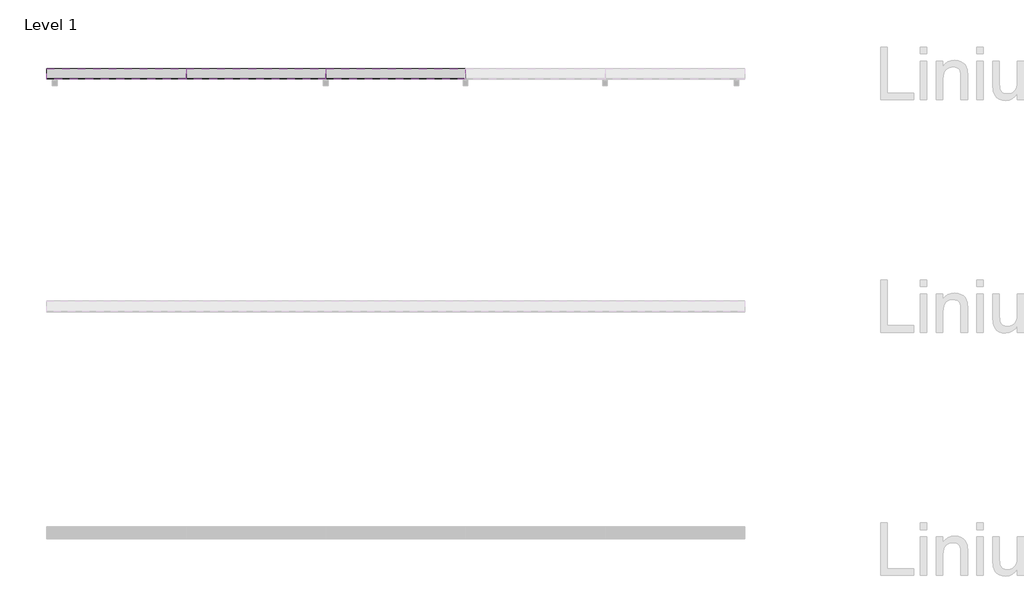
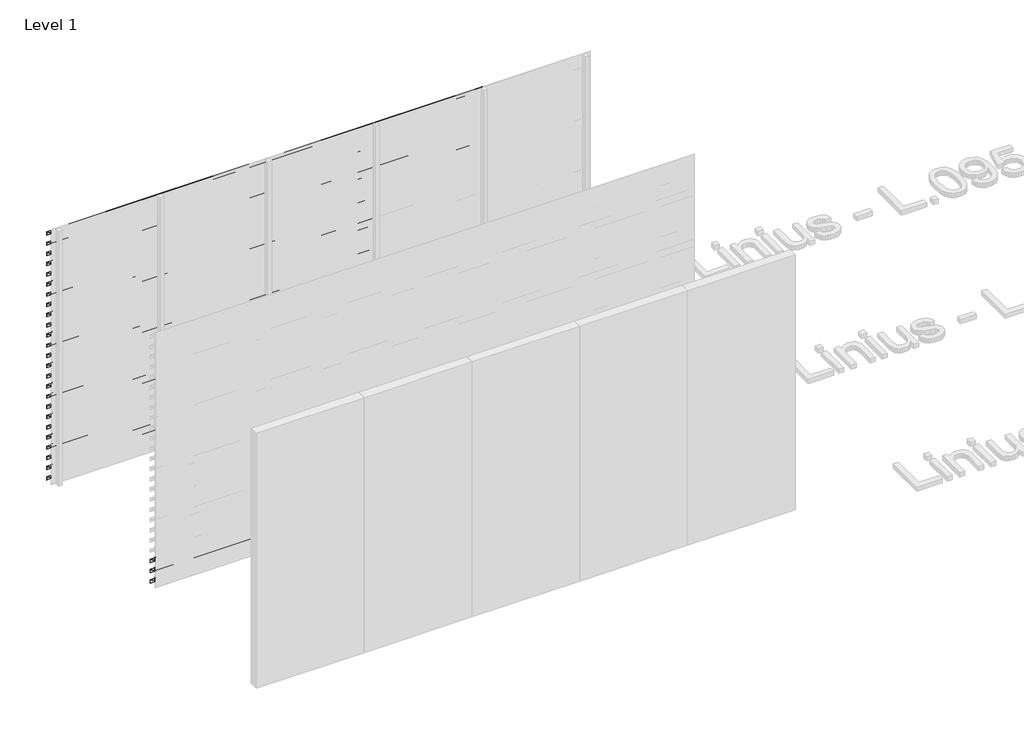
# One storey, part 22 of 46: 85 proxies.
"""IFC4 building model written with IfcOpenShell, lengths in millimetres."""

from ifc_helpers import new_model, si_unit, frame, origin, place, context, project, spatial, polyline, outline, extrude, element, save

model = new_model("IFC4")

# Units and contexts
model_context = context("Model", 3, world=origin())
ifc_project = project(units=[si_unit("LENGTHUNIT", "METRE", prefix="MILLI")], contexts=[model_context])

# Site, building, storey
site = spatial("IfcSite", under=ifc_project)
building = spatial("IfcBuilding", under=site)
storey = spatial("IfcBuildingStorey", under=building, Name="Level 1", Elevation=0.0)

# Proxies
placement = place(None, origin())
element("IfcBuildingElementProxy", 1, Name="Wall Sweeps", at=placement, inside=storey, context=model_context, shape_type="SweptSolid", body=[
    extrude(outline(polyline([(36573.0540136, 2920.0), (36573.0540136, 2880.0), (36571.0540136, 2881.349017), (36571.0540136, 2918.7258595), (36483.0540136, 2959.7609334), (36483.0540136, 3000.0), (36485.0540136, 3000.0), (36485.0540136, 2961.0350739), (36573.0540136, 2920.0)])), frame((466.6208097, 0.0, 0.0), z_axis=(1.0, 0.0, 0.0), x_axis=(0.0, 1.0, 0.0)), (0.0, 0.0, 1.0), 1200.0000002),
])
element("IfcBuildingElementProxy", 2, Name="Wall Sweeps", at=placement, inside=storey, context=model_context, shape_type="SweptSolid", body=[
    extrude(outline(polyline([(36573.0540136, 2800.0), (36573.0540136, 2760.0), (36571.0540136, 2761.349017), (36571.0540136, 2798.7258595), (36483.0540136, 2839.7609334), (36483.0540136, 2880.0), (36485.0540136, 2880.0), (36485.0540136, 2841.0350739), (36573.0540136, 2800.0)])), frame((466.6208097, 0.0, 0.0), z_axis=(1.0, 0.0, 0.0), x_axis=(0.0, 1.0, 0.0)), (0.0, 0.0, 1.0), 1200.0000002),
])
element("IfcBuildingElementProxy", 3, Name="Wall Sweeps", at=placement, inside=storey, context=model_context, shape_type="SweptSolid", body=[
    extrude(outline(polyline([(36573.0540136, 2680.0), (36573.0540136, 2640.0), (36571.0540136, 2641.349017), (36571.0540136, 2678.7258595), (36483.0540136, 2719.7609334), (36483.0540136, 2760.0), (36485.0540136, 2760.0), (36485.0540136, 2721.0350739), (36573.0540136, 2680.0)])), frame((466.6208097, 0.0, 0.0), z_axis=(1.0, 0.0, 0.0), x_axis=(0.0, 1.0, 0.0)), (0.0, 0.0, 1.0), 1200.0000002),
])
element("IfcBuildingElementProxy", 4, Name="Wall Sweeps", at=placement, inside=storey, context=model_context, shape_type="SweptSolid", body=[
    extrude(outline(polyline([(36573.0540136, 2560.0), (36573.0540136, 2520.0), (36571.0540136, 2521.349017), (36571.0540136, 2558.7258595), (36483.0540136, 2599.7609334), (36483.0540136, 2640.0), (36485.0540136, 2640.0), (36485.0540136, 2601.0350739), (36573.0540136, 2560.0)])), frame((466.6208097, 0.0, 0.0), z_axis=(1.0, 0.0, 0.0), x_axis=(0.0, 1.0, 0.0)), (0.0, 0.0, 1.0), 1200.0000002),
])
element("IfcBuildingElementProxy", 5, Name="Wall Sweeps", at=placement, inside=storey, context=model_context, shape_type="SweptSolid", body=[
    extrude(outline(polyline([(36573.0540136, 2440.0), (36573.0540136, 2400.0), (36571.0540136, 2401.349017), (36571.0540136, 2438.7258595), (36483.0540136, 2479.7609334), (36483.0540136, 2520.0), (36485.0540136, 2520.0), (36485.0540136, 2481.0350739), (36573.0540136, 2440.0)])), frame((466.6208097, 0.0, 0.0), z_axis=(1.0, 0.0, 0.0), x_axis=(0.0, 1.0, 0.0)), (0.0, 0.0, 1.0), 1200.0000002),
])
element("IfcBuildingElementProxy", 6, Name="Wall Sweeps", at=placement, inside=storey, context=model_context, shape_type="SweptSolid", body=[
    extrude(outline(polyline([(36573.0540136, 2320.0), (36573.0540136, 2280.0), (36571.0540136, 2281.349017), (36571.0540136, 2318.7258595), (36483.0540136, 2359.7609334), (36483.0540136, 2400.0), (36485.0540136, 2400.0), (36485.0540136, 2361.0350739), (36573.0540136, 2320.0)])), frame((466.6208097, 0.0, 0.0), z_axis=(1.0, 0.0, 0.0), x_axis=(0.0, 1.0, 0.0)), (0.0, 0.0, 1.0), 1200.0000002),
])
element("IfcBuildingElementProxy", 7, Name="Wall Sweeps", at=placement, inside=storey, context=model_context, shape_type="SweptSolid", body=[
    extrude(outline(polyline([(36573.0540136, 2200.0), (36573.0540136, 2160.0), (36571.0540136, 2161.349017), (36571.0540136, 2198.7258595), (36483.0540136, 2239.7609334), (36483.0540136, 2280.0), (36485.0540136, 2280.0), (36485.0540136, 2241.0350739), (36573.0540136, 2200.0)])), frame((466.6208097, 0.0, 0.0), z_axis=(1.0, 0.0, 0.0), x_axis=(0.0, 1.0, 0.0)), (0.0, 0.0, 1.0), 1200.0000002),
])
element("IfcBuildingElementProxy", 8, Name="Wall Sweeps", at=placement, inside=storey, context=model_context, shape_type="SweptSolid", body=[
    extrude(outline(polyline([(36573.0540136, 2080.0), (36573.0540136, 2040.0), (36571.0540136, 2041.349017), (36571.0540136, 2078.7258595), (36483.0540136, 2119.7609334), (36483.0540136, 2160.0), (36485.0540136, 2160.0), (36485.0540136, 2121.0350739), (36573.0540136, 2080.0)])), frame((466.6208097, 0.0, 0.0), z_axis=(1.0, 0.0, 0.0), x_axis=(0.0, 1.0, 0.0)), (0.0, 0.0, 1.0), 1200.0000002),
])
element("IfcBuildingElementProxy", 9, Name="Wall Sweeps", at=placement, inside=storey, context=model_context, shape_type="SweptSolid", body=[
    extrude(outline(polyline([(36573.0540136, 1960.0), (36573.0540136, 1920.0), (36571.0540136, 1921.349017), (36571.0540136, 1958.7258595), (36483.0540136, 1999.7609334), (36483.0540136, 2040.0), (36485.0540136, 2040.0), (36485.0540136, 2001.0350739), (36573.0540136, 1960.0)])), frame((466.6208097, 0.0, 0.0), z_axis=(1.0, 0.0, 0.0), x_axis=(0.0, 1.0, 0.0)), (0.0, 0.0, 1.0), 1200.0000002),
])
element("IfcBuildingElementProxy", 10, Name="Wall Sweeps", at=placement, inside=storey, context=model_context, shape_type="SweptSolid", body=[
    extrude(outline(polyline([(36573.0540136, 1840.0), (36573.0540136, 1800.0), (36571.0540136, 1801.349017), (36571.0540136, 1838.7258595), (36483.0540136, 1879.7609334), (36483.0540136, 1920.0), (36485.0540136, 1920.0), (36485.0540136, 1881.0350739), (36573.0540136, 1840.0)])), frame((466.6208097, 0.0, 0.0), z_axis=(1.0, 0.0, 0.0), x_axis=(0.0, 1.0, 0.0)), (0.0, 0.0, 1.0), 1200.0000002),
])
element("IfcBuildingElementProxy", 11, Name="Wall Sweeps", at=placement, inside=storey, context=model_context, shape_type="SweptSolid", body=[
    extrude(outline(polyline([(36573.0540136, 1720.0), (36573.0540136, 1680.0), (36571.0540136, 1681.349017), (36571.0540136, 1718.7258595), (36483.0540136, 1759.7609334), (36483.0540136, 1800.0), (36485.0540136, 1800.0), (36485.0540136, 1761.0350739), (36573.0540136, 1720.0)])), frame((466.6208097, 0.0, 0.0), z_axis=(1.0, 0.0, 0.0), x_axis=(0.0, 1.0, 0.0)), (0.0, 0.0, 1.0), 1200.0000002),
])
element("IfcBuildingElementProxy", 12, Name="Wall Sweeps", at=placement, inside=storey, context=model_context, shape_type="SweptSolid", body=[
    extrude(outline(polyline([(36573.0540136, 1600.0), (36573.0540136, 1560.0), (36571.0540136, 1561.349017), (36571.0540136, 1598.7258595), (36483.0540136, 1639.7609334), (36483.0540136, 1680.0), (36485.0540136, 1680.0), (36485.0540136, 1641.0350739), (36573.0540136, 1600.0)])), frame((466.6208097, 0.0, 0.0), z_axis=(1.0, 0.0, 0.0), x_axis=(0.0, 1.0, 0.0)), (0.0, 0.0, 1.0), 1200.0000002),
])
element("IfcBuildingElementProxy", 13, Name="Wall Sweeps", at=placement, inside=storey, context=model_context, shape_type="SweptSolid", body=[
    extrude(outline(polyline([(36573.0540136, 1480.0), (36573.0540136, 1440.0), (36571.0540136, 1441.349017), (36571.0540136, 1478.7258595), (36483.0540136, 1519.7609334), (36483.0540136, 1560.0), (36485.0540136, 1560.0), (36485.0540136, 1521.0350739), (36573.0540136, 1480.0)])), frame((466.6208097, 0.0, 0.0), z_axis=(1.0, 0.0, 0.0), x_axis=(0.0, 1.0, 0.0)), (0.0, 0.0, 1.0), 1200.0000002),
])
element("IfcBuildingElementProxy", 14, Name="Wall Sweeps", at=placement, inside=storey, context=model_context, shape_type="SweptSolid", body=[
    extrude(outline(polyline([(36573.0540136, 1360.0), (36573.0540136, 1320.0), (36571.0540136, 1321.349017), (36571.0540136, 1358.7258595), (36483.0540136, 1399.7609334), (36483.0540136, 1440.0), (36485.0540136, 1440.0), (36485.0540136, 1401.0350739), (36573.0540136, 1360.0)])), frame((466.6208097, 0.0, 0.0), z_axis=(1.0, 0.0, 0.0), x_axis=(0.0, 1.0, 0.0)), (0.0, 0.0, 1.0), 1200.0000002),
])
element("IfcBuildingElementProxy", 15, Name="Wall Sweeps", at=placement, inside=storey, context=model_context, shape_type="SweptSolid", body=[
    extrude(outline(polyline([(36573.0540136, 1240.0), (36573.0540136, 1200.0), (36571.0540136, 1201.349017), (36571.0540136, 1238.7258595), (36483.0540136, 1279.7609334), (36483.0540136, 1320.0), (36485.0540136, 1320.0), (36485.0540136, 1281.0350739), (36573.0540136, 1240.0)])), frame((466.6208097, 0.0, 0.0), z_axis=(1.0, 0.0, 0.0), x_axis=(0.0, 1.0, 0.0)), (0.0, 0.0, 1.0), 1200.0000002),
])
element("IfcBuildingElementProxy", 16, Name="Wall Sweeps", at=placement, inside=storey, context=model_context, shape_type="SweptSolid", body=[
    extrude(outline(polyline([(36573.0540136, 1120.0), (36573.0540136, 1080.0), (36571.0540136, 1081.349017), (36571.0540136, 1118.7258595), (36483.0540136, 1159.7609334), (36483.0540136, 1200.0), (36485.0540136, 1200.0), (36485.0540136, 1161.0350739), (36573.0540136, 1120.0)])), frame((466.6208097, 0.0, 0.0), z_axis=(1.0, 0.0, 0.0), x_axis=(0.0, 1.0, 0.0)), (0.0, 0.0, 1.0), 1200.0000002),
])
element("IfcBuildingElementProxy", 17, Name="Wall Sweeps", at=placement, inside=storey, context=model_context, shape_type="SweptSolid", body=[
    extrude(outline(polyline([(36573.0540136, 1000.0), (36573.0540136, 960.0), (36571.0540136, 961.349017), (36571.0540136, 998.7258595), (36483.0540136, 1039.7609334), (36483.0540136, 1080.0), (36485.0540136, 1080.0), (36485.0540136, 1041.0350739), (36573.0540136, 1000.0)])), frame((466.6208097, 0.0, 0.0), z_axis=(1.0, 0.0, 0.0), x_axis=(0.0, 1.0, 0.0)), (0.0, 0.0, 1.0), 1200.0000002),
])
element("IfcBuildingElementProxy", 18, Name="Wall Sweeps", at=placement, inside=storey, context=model_context, shape_type="SweptSolid", body=[
    extrude(outline(polyline([(36573.0540136, 880.0), (36573.0540136, 840.0), (36571.0540136, 841.349017), (36571.0540136, 878.7258595), (36483.0540136, 919.7609334), (36483.0540136, 960.0), (36485.0540136, 960.0), (36485.0540136, 921.0350739), (36573.0540136, 880.0)])), frame((466.6208097, 0.0, 0.0), z_axis=(1.0, 0.0, 0.0), x_axis=(0.0, 1.0, 0.0)), (0.0, 0.0, 1.0), 1200.0000002),
])
element("IfcBuildingElementProxy", 19, Name="Wall Sweeps", at=placement, inside=storey, context=model_context, shape_type="SweptSolid", body=[
    extrude(outline(polyline([(36573.0540136, 760.0), (36573.0540136, 720.0), (36571.0540136, 721.349017), (36571.0540136, 758.7258595), (36483.0540136, 799.7609334), (36483.0540136, 840.0), (36485.0540136, 840.0), (36485.0540136, 801.0350739), (36573.0540136, 760.0)])), frame((466.6208097, 0.0, 0.0), z_axis=(1.0, 0.0, 0.0), x_axis=(0.0, 1.0, 0.0)), (0.0, 0.0, 1.0), 1200.0000002),
])
element("IfcBuildingElementProxy", 20, Name="Wall Sweeps", at=placement, inside=storey, context=model_context, shape_type="SweptSolid", body=[
    extrude(outline(polyline([(36573.0540136, 640.0), (36573.0540136, 600.0), (36571.0540136, 601.349017), (36571.0540136, 638.7258595), (36483.0540136, 679.7609334), (36483.0540136, 720.0), (36485.0540136, 720.0), (36485.0540136, 681.0350739), (36573.0540136, 640.0)])), frame((466.6208097, 0.0, 0.0), z_axis=(1.0, 0.0, 0.0), x_axis=(0.0, 1.0, 0.0)), (0.0, 0.0, 1.0), 1200.0000002),
])
element("IfcBuildingElementProxy", 21, Name="Wall Sweeps", at=placement, inside=storey, context=model_context, shape_type="SweptSolid", body=[
    extrude(outline(polyline([(36573.0540136, 520.0), (36573.0540136, 480.0), (36571.0540136, 481.349017), (36571.0540136, 518.7258595), (36483.0540136, 559.7609334), (36483.0540136, 600.0), (36485.0540136, 600.0), (36485.0540136, 561.0350739), (36573.0540136, 520.0)])), frame((466.6208097, 0.0, 0.0), z_axis=(1.0, 0.0, 0.0), x_axis=(0.0, 1.0, 0.0)), (0.0, 0.0, 1.0), 1200.0000002),
])
element("IfcBuildingElementProxy", 22, Name="Wall Sweeps", at=placement, inside=storey, context=model_context, shape_type="SweptSolid", body=[
    extrude(outline(polyline([(36573.0540136, 400.0), (36573.0540136, 360.0), (36571.0540136, 361.349017), (36571.0540136, 398.7258595), (36483.0540136, 439.7609334), (36483.0540136, 480.0), (36485.0540136, 480.0), (36485.0540136, 441.0350739), (36573.0540136, 400.0)])), frame((466.6208097, 0.0, 0.0), z_axis=(1.0, 0.0, 0.0), x_axis=(0.0, 1.0, 0.0)), (0.0, 0.0, 1.0), 1200.0000002),
])
element("IfcBuildingElementProxy", 23, Name="Wall Sweeps", at=placement, inside=storey, context=model_context, shape_type="SweptSolid", body=[
    extrude(outline(polyline([(36573.0540136, 280.0), (36573.0540136, 240.0), (36571.0540136, 241.349017), (36571.0540136, 278.7258595), (36483.0540136, 319.7609334), (36483.0540136, 360.0), (36485.0540136, 360.0), (36485.0540136, 321.0350739), (36573.0540136, 280.0)])), frame((466.6208097, 0.0, 0.0), z_axis=(1.0, 0.0, 0.0), x_axis=(0.0, 1.0, 0.0)), (0.0, 0.0, 1.0), 1200.0000002),
])
element("IfcBuildingElementProxy", 24, Name="Wall Sweeps", at=placement, inside=storey, context=model_context, shape_type="SweptSolid", body=[
    extrude(outline(polyline([(36573.0540136, 160.0), (36573.0540136, 120.0), (36571.0540136, 121.349017), (36571.0540136, 158.7258595), (36483.0540136, 199.7609334), (36483.0540136, 240.0), (36485.0540136, 240.0), (36485.0540136, 201.0350739), (36573.0540136, 160.0)])), frame((466.6208097, 0.0, 0.0), z_axis=(1.0, 0.0, 0.0), x_axis=(0.0, 1.0, 0.0)), (0.0, 0.0, 1.0), 1200.0000002),
])
element("IfcBuildingElementProxy", 25, Name="Wall Sweeps", at=placement, inside=storey, context=model_context, shape_type="SweptSolid", body=[
    extrude(outline(polyline([(36573.0540136, 40.0), (36573.0540136, 0.0), (36571.0540136, 1.349017), (36571.0540136, 38.7258595), (36483.0540136, 79.7609334), (36483.0540136, 120.0), (36485.0540136, 120.0), (36485.0540136, 81.0350739), (36573.0540136, 40.0)])), frame((466.6208097, 0.0, 0.0), z_axis=(1.0, 0.0, 0.0), x_axis=(0.0, 1.0, 0.0)), (0.0, 0.0, 1.0), 1200.0000002),
])
element("IfcBuildingElementProxy", 26, Name="Wall Sweeps", at=placement, inside=storey, context=model_context, shape_type="SweptSolid", body=[
    extrude(outline(polyline([(36573.0540136, 2920.0), (36573.0540136, 2880.0), (36571.0540136, 2881.349017), (36571.0540136, 2918.7258595), (36483.0540136, 2959.7609334), (36483.0540136, 3000.0), (36485.0540136, 3000.0), (36485.0540136, 2961.0350739), (36573.0540136, 2920.0)])), frame((1666.6208099, 0.0, 0.0), z_axis=(1.0, 0.0, 0.0), x_axis=(0.0, 1.0, 0.0)), (0.0, 0.0, 1.0), 1199.9999999),
])
element("IfcBuildingElementProxy", 27, Name="Wall Sweeps", at=placement, inside=storey, context=model_context, shape_type="SweptSolid", body=[
    extrude(outline(polyline([(36573.0540136, 2800.0), (36573.0540136, 2760.0), (36571.0540136, 2761.349017), (36571.0540136, 2798.7258595), (36483.0540136, 2839.7609334), (36483.0540136, 2880.0), (36485.0540136, 2880.0), (36485.0540136, 2841.0350739), (36573.0540136, 2800.0)])), frame((1666.6208099, 0.0, 0.0), z_axis=(1.0, 0.0, 0.0), x_axis=(0.0, 1.0, 0.0)), (0.0, 0.0, 1.0), 1199.9999999),
])
element("IfcBuildingElementProxy", 28, Name="Wall Sweeps", at=placement, inside=storey, context=model_context, shape_type="SweptSolid", body=[
    extrude(outline(polyline([(36573.0540136, 2680.0), (36573.0540136, 2640.0), (36571.0540136, 2641.349017), (36571.0540136, 2678.7258595), (36483.0540136, 2719.7609334), (36483.0540136, 2760.0), (36485.0540136, 2760.0), (36485.0540136, 2721.0350739), (36573.0540136, 2680.0)])), frame((1666.6208099, 0.0, 0.0), z_axis=(1.0, 0.0, 0.0), x_axis=(0.0, 1.0, 0.0)), (0.0, 0.0, 1.0), 1199.9999999),
])
element("IfcBuildingElementProxy", 29, Name="Wall Sweeps", at=placement, inside=storey, context=model_context, shape_type="SweptSolid", body=[
    extrude(outline(polyline([(36573.0540136, 2560.0), (36573.0540136, 2520.0), (36571.0540136, 2521.349017), (36571.0540136, 2558.7258595), (36483.0540136, 2599.7609334), (36483.0540136, 2640.0), (36485.0540136, 2640.0), (36485.0540136, 2601.0350739), (36573.0540136, 2560.0)])), frame((1666.6208099, 0.0, 0.0), z_axis=(1.0, 0.0, 0.0), x_axis=(0.0, 1.0, 0.0)), (0.0, 0.0, 1.0), 1199.9999999),
])
element("IfcBuildingElementProxy", 30, Name="Wall Sweeps", at=placement, inside=storey, context=model_context, shape_type="SweptSolid", body=[
    extrude(outline(polyline([(36573.0540136, 2440.0), (36573.0540136, 2400.0), (36571.0540136, 2401.349017), (36571.0540136, 2438.7258595), (36483.0540136, 2479.7609334), (36483.0540136, 2520.0), (36485.0540136, 2520.0), (36485.0540136, 2481.0350739), (36573.0540136, 2440.0)])), frame((1666.6208099, 0.0, 0.0), z_axis=(1.0, 0.0, 0.0), x_axis=(0.0, 1.0, 0.0)), (0.0, 0.0, 1.0), 1199.9999999),
])
element("IfcBuildingElementProxy", 31, Name="Wall Sweeps", at=placement, inside=storey, context=model_context, shape_type="SweptSolid", body=[
    extrude(outline(polyline([(36573.0540136, 2320.0), (36573.0540136, 2280.0), (36571.0540136, 2281.349017), (36571.0540136, 2318.7258595), (36483.0540136, 2359.7609334), (36483.0540136, 2400.0), (36485.0540136, 2400.0), (36485.0540136, 2361.0350739), (36573.0540136, 2320.0)])), frame((1666.6208099, 0.0, 0.0), z_axis=(1.0, 0.0, 0.0), x_axis=(0.0, 1.0, 0.0)), (0.0, 0.0, 1.0), 1199.9999999),
])
element("IfcBuildingElementProxy", 32, Name="Wall Sweeps", at=placement, inside=storey, context=model_context, shape_type="SweptSolid", body=[
    extrude(outline(polyline([(36573.0540136, 2200.0), (36573.0540136, 2160.0), (36571.0540136, 2161.349017), (36571.0540136, 2198.7258595), (36483.0540136, 2239.7609334), (36483.0540136, 2280.0), (36485.0540136, 2280.0), (36485.0540136, 2241.0350739), (36573.0540136, 2200.0)])), frame((1666.6208099, 0.0, 0.0), z_axis=(1.0, 0.0, 0.0), x_axis=(0.0, 1.0, 0.0)), (0.0, 0.0, 1.0), 1199.9999999),
])
element("IfcBuildingElementProxy", 33, Name="Wall Sweeps", at=placement, inside=storey, context=model_context, shape_type="SweptSolid", body=[
    extrude(outline(polyline([(36573.0540136, 2080.0), (36573.0540136, 2040.0), (36571.0540136, 2041.349017), (36571.0540136, 2078.7258595), (36483.0540136, 2119.7609334), (36483.0540136, 2160.0), (36485.0540136, 2160.0), (36485.0540136, 2121.0350739), (36573.0540136, 2080.0)])), frame((1666.6208099, 0.0, 0.0), z_axis=(1.0, 0.0, 0.0), x_axis=(0.0, 1.0, 0.0)), (0.0, 0.0, 1.0), 1199.9999999),
])
element("IfcBuildingElementProxy", 34, Name="Wall Sweeps", at=placement, inside=storey, context=model_context, shape_type="SweptSolid", body=[
    extrude(outline(polyline([(36573.0540136, 1960.0), (36573.0540136, 1920.0), (36571.0540136, 1921.349017), (36571.0540136, 1958.7258595), (36483.0540136, 1999.7609334), (36483.0540136, 2040.0), (36485.0540136, 2040.0), (36485.0540136, 2001.0350739), (36573.0540136, 1960.0)])), frame((1666.6208099, 0.0, 0.0), z_axis=(1.0, 0.0, 0.0), x_axis=(0.0, 1.0, 0.0)), (0.0, 0.0, 1.0), 1199.9999999),
])
element("IfcBuildingElementProxy", 35, Name="Wall Sweeps", at=placement, inside=storey, context=model_context, shape_type="SweptSolid", body=[
    extrude(outline(polyline([(36573.0540136, 1840.0), (36573.0540136, 1800.0), (36571.0540136, 1801.349017), (36571.0540136, 1838.7258595), (36483.0540136, 1879.7609334), (36483.0540136, 1920.0), (36485.0540136, 1920.0), (36485.0540136, 1881.0350739), (36573.0540136, 1840.0)])), frame((1666.6208099, 0.0, 0.0), z_axis=(1.0, 0.0, 0.0), x_axis=(0.0, 1.0, 0.0)), (0.0, 0.0, 1.0), 1199.9999999),
])
element("IfcBuildingElementProxy", 36, Name="Wall Sweeps", at=placement, inside=storey, context=model_context, shape_type="SweptSolid", body=[
    extrude(outline(polyline([(36573.0540136, 1720.0), (36573.0540136, 1680.0), (36571.0540136, 1681.349017), (36571.0540136, 1718.7258595), (36483.0540136, 1759.7609334), (36483.0540136, 1800.0), (36485.0540136, 1800.0), (36485.0540136, 1761.0350739), (36573.0540136, 1720.0)])), frame((1666.6208099, 0.0, 0.0), z_axis=(1.0, 0.0, 0.0), x_axis=(0.0, 1.0, 0.0)), (0.0, 0.0, 1.0), 1199.9999999),
])
element("IfcBuildingElementProxy", 37, Name="Wall Sweeps", at=placement, inside=storey, context=model_context, shape_type="SweptSolid", body=[
    extrude(outline(polyline([(36573.0540136, 1600.0), (36573.0540136, 1560.0), (36571.0540136, 1561.349017), (36571.0540136, 1598.7258595), (36483.0540136, 1639.7609334), (36483.0540136, 1680.0), (36485.0540136, 1680.0), (36485.0540136, 1641.0350739), (36573.0540136, 1600.0)])), frame((1666.6208099, 0.0, 0.0), z_axis=(1.0, 0.0, 0.0), x_axis=(0.0, 1.0, 0.0)), (0.0, 0.0, 1.0), 1199.9999999),
])
element("IfcBuildingElementProxy", 38, Name="Wall Sweeps", at=placement, inside=storey, context=model_context, shape_type="SweptSolid", body=[
    extrude(outline(polyline([(36573.0540136, 1480.0), (36573.0540136, 1440.0), (36571.0540136, 1441.349017), (36571.0540136, 1478.7258595), (36483.0540136, 1519.7609334), (36483.0540136, 1560.0), (36485.0540136, 1560.0), (36485.0540136, 1521.0350739), (36573.0540136, 1480.0)])), frame((1666.6208099, 0.0, 0.0), z_axis=(1.0, 0.0, 0.0), x_axis=(0.0, 1.0, 0.0)), (0.0, 0.0, 1.0), 1199.9999999),
])
element("IfcBuildingElementProxy", 39, Name="Wall Sweeps", at=placement, inside=storey, context=model_context, shape_type="SweptSolid", body=[
    extrude(outline(polyline([(36573.0540136, 1360.0), (36573.0540136, 1320.0), (36571.0540136, 1321.349017), (36571.0540136, 1358.7258595), (36483.0540136, 1399.7609334), (36483.0540136, 1440.0), (36485.0540136, 1440.0), (36485.0540136, 1401.0350739), (36573.0540136, 1360.0)])), frame((1666.6208099, 0.0, 0.0), z_axis=(1.0, 0.0, 0.0), x_axis=(0.0, 1.0, 0.0)), (0.0, 0.0, 1.0), 1199.9999999),
])
element("IfcBuildingElementProxy", 40, Name="Wall Sweeps", at=placement, inside=storey, context=model_context, shape_type="SweptSolid", body=[
    extrude(outline(polyline([(36573.0540136, 1240.0), (36573.0540136, 1200.0), (36571.0540136, 1201.349017), (36571.0540136, 1238.7258595), (36483.0540136, 1279.7609334), (36483.0540136, 1320.0), (36485.0540136, 1320.0), (36485.0540136, 1281.0350739), (36573.0540136, 1240.0)])), frame((1666.6208099, 0.0, 0.0), z_axis=(1.0, 0.0, 0.0), x_axis=(0.0, 1.0, 0.0)), (0.0, 0.0, 1.0), 1199.9999999),
])
element("IfcBuildingElementProxy", 41, Name="Wall Sweeps", at=placement, inside=storey, context=model_context, shape_type="SweptSolid", body=[
    extrude(outline(polyline([(36573.0540136, 1120.0), (36573.0540136, 1080.0), (36571.0540136, 1081.349017), (36571.0540136, 1118.7258595), (36483.0540136, 1159.7609334), (36483.0540136, 1200.0), (36485.0540136, 1200.0), (36485.0540136, 1161.0350739), (36573.0540136, 1120.0)])), frame((1666.6208099, 0.0, 0.0), z_axis=(1.0, 0.0, 0.0), x_axis=(0.0, 1.0, 0.0)), (0.0, 0.0, 1.0), 1199.9999999),
])
element("IfcBuildingElementProxy", 42, Name="Wall Sweeps", at=placement, inside=storey, context=model_context, shape_type="SweptSolid", body=[
    extrude(outline(polyline([(36573.0540136, 1000.0), (36573.0540136, 960.0), (36571.0540136, 961.349017), (36571.0540136, 998.7258595), (36483.0540136, 1039.7609334), (36483.0540136, 1080.0), (36485.0540136, 1080.0), (36485.0540136, 1041.0350739), (36573.0540136, 1000.0)])), frame((1666.6208099, 0.0, 0.0), z_axis=(1.0, 0.0, 0.0), x_axis=(0.0, 1.0, 0.0)), (0.0, 0.0, 1.0), 1199.9999999),
])
element("IfcBuildingElementProxy", 43, Name="Wall Sweeps", at=placement, inside=storey, context=model_context, shape_type="SweptSolid", body=[
    extrude(outline(polyline([(36573.0540136, 880.0), (36573.0540136, 840.0), (36571.0540136, 841.349017), (36571.0540136, 878.7258595), (36483.0540136, 919.7609334), (36483.0540136, 960.0), (36485.0540136, 960.0), (36485.0540136, 921.0350739), (36573.0540136, 880.0)])), frame((1666.6208099, 0.0, 0.0), z_axis=(1.0, 0.0, 0.0), x_axis=(0.0, 1.0, 0.0)), (0.0, 0.0, 1.0), 1199.9999999),
])
element("IfcBuildingElementProxy", 44, Name="Wall Sweeps", at=placement, inside=storey, context=model_context, shape_type="SweptSolid", body=[
    extrude(outline(polyline([(36573.0540136, 760.0), (36573.0540136, 720.0), (36571.0540136, 721.349017), (36571.0540136, 758.7258595), (36483.0540136, 799.7609334), (36483.0540136, 840.0), (36485.0540136, 840.0), (36485.0540136, 801.0350739), (36573.0540136, 760.0)])), frame((1666.6208099, 0.0, 0.0), z_axis=(1.0, 0.0, 0.0), x_axis=(0.0, 1.0, 0.0)), (0.0, 0.0, 1.0), 1199.9999999),
])
element("IfcBuildingElementProxy", 45, Name="Wall Sweeps", at=placement, inside=storey, context=model_context, shape_type="SweptSolid", body=[
    extrude(outline(polyline([(36573.0540136, 640.0), (36573.0540136, 600.0), (36571.0540136, 601.349017), (36571.0540136, 638.7258595), (36483.0540136, 679.7609334), (36483.0540136, 720.0), (36485.0540136, 720.0), (36485.0540136, 681.0350739), (36573.0540136, 640.0)])), frame((1666.6208099, 0.0, 0.0), z_axis=(1.0, 0.0, 0.0), x_axis=(0.0, 1.0, 0.0)), (0.0, 0.0, 1.0), 1199.9999999),
])
element("IfcBuildingElementProxy", 46, Name="Wall Sweeps", at=placement, inside=storey, context=model_context, shape_type="SweptSolid", body=[
    extrude(outline(polyline([(36573.0540136, 520.0), (36573.0540136, 480.0), (36571.0540136, 481.349017), (36571.0540136, 518.7258595), (36483.0540136, 559.7609334), (36483.0540136, 600.0), (36485.0540136, 600.0), (36485.0540136, 561.0350739), (36573.0540136, 520.0)])), frame((1666.6208099, 0.0, 0.0), z_axis=(1.0, 0.0, 0.0), x_axis=(0.0, 1.0, 0.0)), (0.0, 0.0, 1.0), 1199.9999999),
])
element("IfcBuildingElementProxy", 47, Name="Wall Sweeps", at=placement, inside=storey, context=model_context, shape_type="SweptSolid", body=[
    extrude(outline(polyline([(36573.0540136, 400.0), (36573.0540136, 360.0), (36571.0540136, 361.349017), (36571.0540136, 398.7258595), (36483.0540136, 439.7609334), (36483.0540136, 480.0), (36485.0540136, 480.0), (36485.0540136, 441.0350739), (36573.0540136, 400.0)])), frame((1666.6208099, 0.0, 0.0), z_axis=(1.0, 0.0, 0.0), x_axis=(0.0, 1.0, 0.0)), (0.0, 0.0, 1.0), 1199.9999999),
])
element("IfcBuildingElementProxy", 48, Name="Wall Sweeps", at=placement, inside=storey, context=model_context, shape_type="SweptSolid", body=[
    extrude(outline(polyline([(36573.0540136, 280.0), (36573.0540136, 240.0), (36571.0540136, 241.349017), (36571.0540136, 278.7258595), (36483.0540136, 319.7609334), (36483.0540136, 360.0), (36485.0540136, 360.0), (36485.0540136, 321.0350739), (36573.0540136, 280.0)])), frame((1666.6208099, 0.0, 0.0), z_axis=(1.0, 0.0, 0.0), x_axis=(0.0, 1.0, 0.0)), (0.0, 0.0, 1.0), 1199.9999999),
])
element("IfcBuildingElementProxy", 49, Name="Wall Sweeps", at=placement, inside=storey, context=model_context, shape_type="SweptSolid", body=[
    extrude(outline(polyline([(36573.0540136, 160.0), (36573.0540136, 120.0), (36571.0540136, 121.349017), (36571.0540136, 158.7258595), (36483.0540136, 199.7609334), (36483.0540136, 240.0), (36485.0540136, 240.0), (36485.0540136, 201.0350739), (36573.0540136, 160.0)])), frame((1666.6208099, 0.0, 0.0), z_axis=(1.0, 0.0, 0.0), x_axis=(0.0, 1.0, 0.0)), (0.0, 0.0, 1.0), 1199.9999999),
])
element("IfcBuildingElementProxy", 50, Name="Wall Sweeps", at=placement, inside=storey, context=model_context, shape_type="SweptSolid", body=[
    extrude(outline(polyline([(36573.0540136, 40.0), (36573.0540136, 0.0), (36571.0540136, 1.349017), (36571.0540136, 38.7258595), (36483.0540136, 79.7609334), (36483.0540136, 120.0), (36485.0540136, 120.0), (36485.0540136, 81.0350739), (36573.0540136, 40.0)])), frame((1666.6208099, 0.0, 0.0), z_axis=(1.0, 0.0, 0.0), x_axis=(0.0, 1.0, 0.0)), (0.0, 0.0, 1.0), 1199.9999999),
])
element("IfcBuildingElementProxy", 51, Name="Wall Sweeps", at=placement, inside=storey, context=model_context, shape_type="SweptSolid", body=[
    extrude(outline(polyline([(34573.0540136, 280.0), (34573.0540136, 240.0), (34571.0540136, 241.349017), (34571.0540136, 278.7258595), (34483.0540136, 319.7609334), (34483.0540136, 360.0), (34485.0540136, 360.0), (34485.0540136, 321.0350739), (34573.0540136, 280.0)])), frame((466.6208097, 0.0, 0.0), z_axis=(1.0, 0.0, 0.0), x_axis=(0.0, 1.0, 0.0)), (0.0, 0.0, 1.0), 6000.0),
])
element("IfcBuildingElementProxy", 52, Name="Wall Sweeps", at=placement, inside=storey, context=model_context, shape_type="SweptSolid", body=[
    extrude(outline(polyline([(34573.0540136, 160.0), (34573.0540136, 120.0), (34571.0540136, 121.349017), (34571.0540136, 158.7258595), (34483.0540136, 199.7609334), (34483.0540136, 240.0), (34485.0540136, 240.0), (34485.0540136, 201.0350739), (34573.0540136, 160.0)])), frame((466.6208097, 0.0, 0.0), z_axis=(1.0, 0.0, 0.0), x_axis=(0.0, 1.0, 0.0)), (0.0, 0.0, 1.0), 6000.0),
])
element("IfcBuildingElementProxy", 53, Name="Wall Sweeps", at=placement, inside=storey, context=model_context, shape_type="SweptSolid", body=[
    extrude(outline(polyline([(34573.0540136, 40.0), (34573.0540136, 0.0), (34571.0540136, 1.349017), (34571.0540136, 38.7258595), (34483.0540136, 79.7609334), (34483.0540136, 120.0), (34485.0540136, 120.0), (34485.0540136, 81.0350739), (34573.0540136, 40.0)])), frame((466.6208097, 0.0, 0.0), z_axis=(1.0, 0.0, 0.0), x_axis=(0.0, 1.0, 0.0)), (0.0, 0.0, 1.0), 6000.0),
])
element("IfcBuildingElementProxy", 54, Name="Wall Sweeps", at=placement, inside=storey, context=model_context, shape_type="SweptSolid", body=[
    extrude(outline(polyline([(36573.0540136, 2920.0), (36573.0540136, 2880.0), (36571.0540136, 2881.349017), (36571.0540136, 2918.7258595), (36483.0540136, 2959.7609334), (36483.0540136, 3000.0), (36485.0540136, 3000.0), (36485.0540136, 2961.0350739), (36573.0540136, 2920.0)])), frame((2866.6208097, 0.0, 0.0), z_axis=(1.0, 0.0, 0.0), x_axis=(0.0, 1.0, 0.0)), (0.0, 0.0, 1.0), 1199.9999999),
])
element("IfcBuildingElementProxy", 55, Name="Wall Sweeps", at=placement, inside=storey, context=model_context, shape_type="SweptSolid", body=[
    extrude(outline(polyline([(36573.0540136, 2800.0), (36573.0540136, 2760.0), (36571.0540136, 2761.349017), (36571.0540136, 2798.7258595), (36483.0540136, 2839.7609334), (36483.0540136, 2880.0), (36485.0540136, 2880.0), (36485.0540136, 2841.0350739), (36573.0540136, 2800.0)])), frame((2866.6208097, 0.0, 0.0), z_axis=(1.0, 0.0, 0.0), x_axis=(0.0, 1.0, 0.0)), (0.0, 0.0, 1.0), 1199.9999999),
])
element("IfcBuildingElementProxy", 56, Name="Wall Sweeps", at=placement, inside=storey, context=model_context, shape_type="SweptSolid", body=[
    extrude(outline(polyline([(36573.0540136, 2680.0), (36573.0540136, 2640.0), (36571.0540136, 2641.349017), (36571.0540136, 2678.7258595), (36483.0540136, 2719.7609334), (36483.0540136, 2760.0), (36485.0540136, 2760.0), (36485.0540136, 2721.0350739), (36573.0540136, 2680.0)])), frame((2866.6208097, 0.0, 0.0), z_axis=(1.0, 0.0, 0.0), x_axis=(0.0, 1.0, 0.0)), (0.0, 0.0, 1.0), 1199.9999999),
])
element("IfcBuildingElementProxy", 57, Name="Wall Sweeps", at=placement, inside=storey, context=model_context, shape_type="SweptSolid", body=[
    extrude(outline(polyline([(36573.0540136, 2560.0), (36573.0540136, 2520.0), (36571.0540136, 2521.349017), (36571.0540136, 2558.7258595), (36483.0540136, 2599.7609334), (36483.0540136, 2640.0), (36485.0540136, 2640.0), (36485.0540136, 2601.0350739), (36573.0540136, 2560.0)])), frame((2866.6208097, 0.0, 0.0), z_axis=(1.0, 0.0, 0.0), x_axis=(0.0, 1.0, 0.0)), (0.0, 0.0, 1.0), 1199.9999999),
])
element("IfcBuildingElementProxy", 58, Name="Wall Sweeps", at=placement, inside=storey, context=model_context, shape_type="SweptSolid", body=[
    extrude(outline(polyline([(36573.0540136, 2440.0), (36573.0540136, 2400.0), (36571.0540136, 2401.349017), (36571.0540136, 2438.7258595), (36483.0540136, 2479.7609334), (36483.0540136, 2520.0), (36485.0540136, 2520.0), (36485.0540136, 2481.0350739), (36573.0540136, 2440.0)])), frame((2866.6208097, 0.0, 0.0), z_axis=(1.0, 0.0, 0.0), x_axis=(0.0, 1.0, 0.0)), (0.0, 0.0, 1.0), 1199.9999999),
])
element("IfcBuildingElementProxy", 59, Name="Wall Sweeps", at=placement, inside=storey, context=model_context, shape_type="SweptSolid", body=[
    extrude(outline(polyline([(36573.0540136, 2320.0), (36573.0540136, 2280.0), (36571.0540136, 2281.349017), (36571.0540136, 2318.7258595), (36483.0540136, 2359.7609334), (36483.0540136, 2400.0), (36485.0540136, 2400.0), (36485.0540136, 2361.0350739), (36573.0540136, 2320.0)])), frame((2866.6208097, 0.0, 0.0), z_axis=(1.0, 0.0, 0.0), x_axis=(0.0, 1.0, 0.0)), (0.0, 0.0, 1.0), 1199.9999999),
])
element("IfcBuildingElementProxy", 60, Name="Wall Sweeps", at=placement, inside=storey, context=model_context, shape_type="SweptSolid", body=[
    extrude(outline(polyline([(36573.0540136, 2200.0), (36573.0540136, 2160.0), (36571.0540136, 2161.349017), (36571.0540136, 2198.7258595), (36483.0540136, 2239.7609334), (36483.0540136, 2280.0), (36485.0540136, 2280.0), (36485.0540136, 2241.0350739), (36573.0540136, 2200.0)])), frame((2866.6208097, 0.0, 0.0), z_axis=(1.0, 0.0, 0.0), x_axis=(0.0, 1.0, 0.0)), (0.0, 0.0, 1.0), 1199.9999999),
])
element("IfcBuildingElementProxy", 61, Name="Wall Sweeps", at=placement, inside=storey, context=model_context, shape_type="SweptSolid", body=[
    extrude(outline(polyline([(36573.0540136, 2080.0), (36573.0540136, 2040.0), (36571.0540136, 2041.349017), (36571.0540136, 2078.7258595), (36483.0540136, 2119.7609334), (36483.0540136, 2160.0), (36485.0540136, 2160.0), (36485.0540136, 2121.0350739), (36573.0540136, 2080.0)])), frame((2866.6208097, 0.0, 0.0), z_axis=(1.0, 0.0, 0.0), x_axis=(0.0, 1.0, 0.0)), (0.0, 0.0, 1.0), 1199.9999999),
])
element("IfcBuildingElementProxy", 62, Name="Wall Sweeps", at=placement, inside=storey, context=model_context, shape_type="SweptSolid", body=[
    extrude(outline(polyline([(36573.0540136, 1960.0), (36573.0540136, 1920.0), (36571.0540136, 1921.349017), (36571.0540136, 1958.7258595), (36483.0540136, 1999.7609334), (36483.0540136, 2040.0), (36485.0540136, 2040.0), (36485.0540136, 2001.0350739), (36573.0540136, 1960.0)])), frame((2866.6208097, 0.0, 0.0), z_axis=(1.0, 0.0, 0.0), x_axis=(0.0, 1.0, 0.0)), (0.0, 0.0, 1.0), 1199.9999999),
])
element("IfcBuildingElementProxy", 63, Name="Wall Sweeps", at=placement, inside=storey, context=model_context, shape_type="SweptSolid", body=[
    extrude(outline(polyline([(36573.0540136, 1840.0), (36573.0540136, 1800.0), (36571.0540136, 1801.349017), (36571.0540136, 1838.7258595), (36483.0540136, 1879.7609334), (36483.0540136, 1920.0), (36485.0540136, 1920.0), (36485.0540136, 1881.0350739), (36573.0540136, 1840.0)])), frame((2866.6208097, 0.0, 0.0), z_axis=(1.0, 0.0, 0.0), x_axis=(0.0, 1.0, 0.0)), (0.0, 0.0, 1.0), 1199.9999999),
])
element("IfcBuildingElementProxy", 64, Name="Wall Sweeps", at=placement, inside=storey, context=model_context, shape_type="SweptSolid", body=[
    extrude(outline(polyline([(36573.0540136, 1720.0), (36573.0540136, 1680.0), (36571.0540136, 1681.349017), (36571.0540136, 1718.7258595), (36483.0540136, 1759.7609334), (36483.0540136, 1800.0), (36485.0540136, 1800.0), (36485.0540136, 1761.0350739), (36573.0540136, 1720.0)])), frame((2866.6208097, 0.0, 0.0), z_axis=(1.0, 0.0, 0.0), x_axis=(0.0, 1.0, 0.0)), (0.0, 0.0, 1.0), 1199.9999999),
])
element("IfcBuildingElementProxy", 65, Name="Wall Sweeps", at=placement, inside=storey, context=model_context, shape_type="SweptSolid", body=[
    extrude(outline(polyline([(36573.0540136, 1600.0), (36573.0540136, 1560.0), (36571.0540136, 1561.349017), (36571.0540136, 1598.7258595), (36483.0540136, 1639.7609334), (36483.0540136, 1680.0), (36485.0540136, 1680.0), (36485.0540136, 1641.0350739), (36573.0540136, 1600.0)])), frame((2866.6208097, 0.0, 0.0), z_axis=(1.0, 0.0, 0.0), x_axis=(0.0, 1.0, 0.0)), (0.0, 0.0, 1.0), 1199.9999999),
])
element("IfcBuildingElementProxy", 66, Name="Wall Sweeps", at=placement, inside=storey, context=model_context, shape_type="SweptSolid", body=[
    extrude(outline(polyline([(36573.0540136, 1480.0), (36573.0540136, 1440.0), (36571.0540136, 1441.349017), (36571.0540136, 1478.7258595), (36483.0540136, 1519.7609334), (36483.0540136, 1560.0), (36485.0540136, 1560.0), (36485.0540136, 1521.0350739), (36573.0540136, 1480.0)])), frame((2866.6208097, 0.0, 0.0), z_axis=(1.0, 0.0, 0.0), x_axis=(0.0, 1.0, 0.0)), (0.0, 0.0, 1.0), 1199.9999999),
])
element("IfcBuildingElementProxy", 67, Name="Wall Sweeps", at=placement, inside=storey, context=model_context, shape_type="SweptSolid", body=[
    extrude(outline(polyline([(36573.0540136, 1360.0), (36573.0540136, 1320.0), (36571.0540136, 1321.349017), (36571.0540136, 1358.7258595), (36483.0540136, 1399.7609334), (36483.0540136, 1440.0), (36485.0540136, 1440.0), (36485.0540136, 1401.0350739), (36573.0540136, 1360.0)])), frame((2866.6208097, 0.0, 0.0), z_axis=(1.0, 0.0, 0.0), x_axis=(0.0, 1.0, 0.0)), (0.0, 0.0, 1.0), 1199.9999999),
])
element("IfcBuildingElementProxy", 68, Name="Wall Sweeps", at=placement, inside=storey, context=model_context, shape_type="SweptSolid", body=[
    extrude(outline(polyline([(36573.0540136, 1240.0), (36573.0540136, 1200.0), (36571.0540136, 1201.349017), (36571.0540136, 1238.7258595), (36483.0540136, 1279.7609334), (36483.0540136, 1320.0), (36485.0540136, 1320.0), (36485.0540136, 1281.0350739), (36573.0540136, 1240.0)])), frame((2866.6208097, 0.0, 0.0), z_axis=(1.0, 0.0, 0.0), x_axis=(0.0, 1.0, 0.0)), (0.0, 0.0, 1.0), 1199.9999999),
])
element("IfcBuildingElementProxy", 69, Name="Wall Sweeps", at=placement, inside=storey, context=model_context, shape_type="SweptSolid", body=[
    extrude(outline(polyline([(36573.0540136, 1120.0), (36573.0540136, 1080.0), (36571.0540136, 1081.349017), (36571.0540136, 1118.7258595), (36483.0540136, 1159.7609334), (36483.0540136, 1200.0), (36485.0540136, 1200.0), (36485.0540136, 1161.0350739), (36573.0540136, 1120.0)])), frame((2866.6208097, 0.0, 0.0), z_axis=(1.0, 0.0, 0.0), x_axis=(0.0, 1.0, 0.0)), (0.0, 0.0, 1.0), 1199.9999999),
])
element("IfcBuildingElementProxy", 70, Name="Wall Sweeps", at=placement, inside=storey, context=model_context, shape_type="SweptSolid", body=[
    extrude(outline(polyline([(36573.0540136, 1000.0), (36573.0540136, 960.0), (36571.0540136, 961.349017), (36571.0540136, 998.7258595), (36483.0540136, 1039.7609334), (36483.0540136, 1080.0), (36485.0540136, 1080.0), (36485.0540136, 1041.0350739), (36573.0540136, 1000.0)])), frame((2866.6208097, 0.0, 0.0), z_axis=(1.0, 0.0, 0.0), x_axis=(0.0, 1.0, 0.0)), (0.0, 0.0, 1.0), 1199.9999999),
])
element("IfcBuildingElementProxy", 71, Name="Wall Sweeps", at=placement, inside=storey, context=model_context, shape_type="SweptSolid", body=[
    extrude(outline(polyline([(36573.0540136, 880.0), (36573.0540136, 840.0), (36571.0540136, 841.349017), (36571.0540136, 878.7258595), (36483.0540136, 919.7609334), (36483.0540136, 960.0), (36485.0540136, 960.0), (36485.0540136, 921.0350739), (36573.0540136, 880.0)])), frame((2866.6208097, 0.0, 0.0), z_axis=(1.0, 0.0, 0.0), x_axis=(0.0, 1.0, 0.0)), (0.0, 0.0, 1.0), 1199.9999999),
])
element("IfcBuildingElementProxy", 72, Name="Wall Sweeps", at=placement, inside=storey, context=model_context, shape_type="SweptSolid", body=[
    extrude(outline(polyline([(36573.0540136, 760.0), (36573.0540136, 720.0), (36571.0540136, 721.349017), (36571.0540136, 758.7258595), (36483.0540136, 799.7609334), (36483.0540136, 840.0), (36485.0540136, 840.0), (36485.0540136, 801.0350739), (36573.0540136, 760.0)])), frame((2866.6208097, 0.0, 0.0), z_axis=(1.0, 0.0, 0.0), x_axis=(0.0, 1.0, 0.0)), (0.0, 0.0, 1.0), 1199.9999999),
])
element("IfcBuildingElementProxy", 73, Name="Wall Sweeps", at=placement, inside=storey, context=model_context, shape_type="SweptSolid", body=[
    extrude(outline(polyline([(36573.0540136, 640.0), (36573.0540136, 600.0), (36571.0540136, 601.349017), (36571.0540136, 638.7258595), (36483.0540136, 679.7609334), (36483.0540136, 720.0), (36485.0540136, 720.0), (36485.0540136, 681.0350739), (36573.0540136, 640.0)])), frame((2866.6208097, 0.0, 0.0), z_axis=(1.0, 0.0, 0.0), x_axis=(0.0, 1.0, 0.0)), (0.0, 0.0, 1.0), 1199.9999999),
])
element("IfcBuildingElementProxy", 74, Name="Wall Sweeps", at=placement, inside=storey, context=model_context, shape_type="SweptSolid", body=[
    extrude(outline(polyline([(36573.0540136, 520.0), (36573.0540136, 480.0), (36571.0540136, 481.349017), (36571.0540136, 518.7258595), (36483.0540136, 559.7609334), (36483.0540136, 600.0), (36485.0540136, 600.0), (36485.0540136, 561.0350739), (36573.0540136, 520.0)])), frame((2866.6208097, 0.0, 0.0), z_axis=(1.0, 0.0, 0.0), x_axis=(0.0, 1.0, 0.0)), (0.0, 0.0, 1.0), 1199.9999999),
])
element("IfcBuildingElementProxy", 75, Name="Wall Sweeps", at=placement, inside=storey, context=model_context, shape_type="SweptSolid", body=[
    extrude(outline(polyline([(36573.0540136, 400.0), (36573.0540136, 360.0), (36571.0540136, 361.349017), (36571.0540136, 398.7258595), (36483.0540136, 439.7609334), (36483.0540136, 480.0), (36485.0540136, 480.0), (36485.0540136, 441.0350739), (36573.0540136, 400.0)])), frame((2866.6208097, 0.0, 0.0), z_axis=(1.0, 0.0, 0.0), x_axis=(0.0, 1.0, 0.0)), (0.0, 0.0, 1.0), 1199.9999999),
])
element("IfcBuildingElementProxy", 76, Name="Wall Sweeps", at=placement, inside=storey, context=model_context, shape_type="SweptSolid", body=[
    extrude(outline(polyline([(36573.0540136, 280.0), (36573.0540136, 240.0), (36571.0540136, 241.349017), (36571.0540136, 278.7258595), (36483.0540136, 319.7609334), (36483.0540136, 360.0), (36485.0540136, 360.0), (36485.0540136, 321.0350739), (36573.0540136, 280.0)])), frame((2866.6208097, 0.0, 0.0), z_axis=(1.0, 0.0, 0.0), x_axis=(0.0, 1.0, 0.0)), (0.0, 0.0, 1.0), 1199.9999999),
])
element("IfcBuildingElementProxy", 77, Name="Wall Sweeps", at=placement, inside=storey, context=model_context, shape_type="SweptSolid", body=[
    extrude(outline(polyline([(36573.0540136, 160.0), (36573.0540136, 120.0), (36571.0540136, 121.349017), (36571.0540136, 158.7258595), (36483.0540136, 199.7609334), (36483.0540136, 240.0), (36485.0540136, 240.0), (36485.0540136, 201.0350739), (36573.0540136, 160.0)])), frame((2866.6208097, 0.0, 0.0), z_axis=(1.0, 0.0, 0.0), x_axis=(0.0, 1.0, 0.0)), (0.0, 0.0, 1.0), 1199.9999999),
])
element("IfcBuildingElementProxy", 78, Name="Wall Sweeps", at=placement, inside=storey, context=model_context, shape_type="SweptSolid", body=[
    extrude(outline(polyline([(36573.0540136, 40.0), (36573.0540136, 0.0), (36571.0540136, 1.349017), (36571.0540136, 38.7258595), (36483.0540136, 79.7609334), (36483.0540136, 120.0), (36485.0540136, 120.0), (36485.0540136, 81.0350739), (36573.0540136, 40.0)])), frame((2866.6208097, 0.0, 0.0), z_axis=(1.0, 0.0, 0.0), x_axis=(0.0, 1.0, 0.0)), (0.0, 0.0, 1.0), 1199.9999999),
])
element("IfcBuildingElementProxy", 79, Name="Wall Sweeps", at=placement, inside=storey, context=model_context, shape_type="SweptSolid", body=[
    extrude(outline(polyline([(36573.0540136, 2920.0), (36573.0540136, 2880.0), (36571.0540136, 2881.349017), (36571.0540136, 2918.7258595), (36483.0540136, 2959.7609334), (36483.0540136, 3000.0), (36485.0540136, 3000.0), (36485.0540136, 2961.0350739), (36573.0540136, 2920.0)])), frame((4066.6208096, 0.0, 0.0), z_axis=(1.0, 0.0, 0.0), x_axis=(0.0, 1.0, 0.0)), (0.0, 0.0, 1.0), 1199.9999999),
])
element("IfcBuildingElementProxy", 80, Name="Wall Sweeps", at=placement, inside=storey, context=model_context, shape_type="SweptSolid", body=[
    extrude(outline(polyline([(36573.0540136, 2800.0), (36573.0540136, 2760.0), (36571.0540136, 2761.349017), (36571.0540136, 2798.7258595), (36483.0540136, 2839.7609334), (36483.0540136, 2880.0), (36485.0540136, 2880.0), (36485.0540136, 2841.0350739), (36573.0540136, 2800.0)])), frame((4066.6208096, 0.0, 0.0), z_axis=(1.0, 0.0, 0.0), x_axis=(0.0, 1.0, 0.0)), (0.0, 0.0, 1.0), 1199.9999999),
])
element("IfcBuildingElementProxy", 81, Name="Wall Sweeps", at=placement, inside=storey, context=model_context, shape_type="SweptSolid", body=[
    extrude(outline(polyline([(36573.0540136, 2680.0), (36573.0540136, 2640.0), (36571.0540136, 2641.349017), (36571.0540136, 2678.7258595), (36483.0540136, 2719.7609334), (36483.0540136, 2760.0), (36485.0540136, 2760.0), (36485.0540136, 2721.0350739), (36573.0540136, 2680.0)])), frame((4066.6208096, 0.0, 0.0), z_axis=(1.0, 0.0, 0.0), x_axis=(0.0, 1.0, 0.0)), (0.0, 0.0, 1.0), 1199.9999999),
])
element("IfcBuildingElementProxy", 82, Name="Wall Sweeps", at=placement, inside=storey, context=model_context, shape_type="SweptSolid", body=[
    extrude(outline(polyline([(36573.0540136, 2560.0), (36573.0540136, 2520.0), (36571.0540136, 2521.349017), (36571.0540136, 2558.7258595), (36483.0540136, 2599.7609334), (36483.0540136, 2640.0), (36485.0540136, 2640.0), (36485.0540136, 2601.0350739), (36573.0540136, 2560.0)])), frame((4066.6208096, 0.0, 0.0), z_axis=(1.0, 0.0, 0.0), x_axis=(0.0, 1.0, 0.0)), (0.0, 0.0, 1.0), 1199.9999999),
])
element("IfcBuildingElementProxy", 83, Name="Wall Sweeps", at=placement, inside=storey, context=model_context, shape_type="SweptSolid", body=[
    extrude(outline(polyline([(36573.0540136, 2440.0), (36573.0540136, 2400.0), (36571.0540136, 2401.349017), (36571.0540136, 2438.7258595), (36483.0540136, 2479.7609334), (36483.0540136, 2520.0), (36485.0540136, 2520.0), (36485.0540136, 2481.0350739), (36573.0540136, 2440.0)])), frame((4066.6208096, 0.0, 0.0), z_axis=(1.0, 0.0, 0.0), x_axis=(0.0, 1.0, 0.0)), (0.0, 0.0, 1.0), 1199.9999999),
])
element("IfcBuildingElementProxy", 84, Name="Wall Sweeps", at=placement, inside=storey, context=model_context, shape_type="SweptSolid", body=[
    extrude(outline(polyline([(36573.0540136, 2320.0), (36573.0540136, 2280.0), (36571.0540136, 2281.349017), (36571.0540136, 2318.7258595), (36483.0540136, 2359.7609334), (36483.0540136, 2400.0), (36485.0540136, 2400.0), (36485.0540136, 2361.0350739), (36573.0540136, 2320.0)])), frame((4066.6208096, 0.0, 0.0), z_axis=(1.0, 0.0, 0.0), x_axis=(0.0, 1.0, 0.0)), (0.0, 0.0, 1.0), 1199.9999999),
])
element("IfcBuildingElementProxy", 85, Name="Wall Sweeps", at=placement, inside=storey, context=model_context, shape_type="SweptSolid", body=[
    extrude(outline(polyline([(36573.0540136, 2200.0), (36573.0540136, 2160.0), (36571.0540136, 2161.349017), (36571.0540136, 2198.7258595), (36483.0540136, 2239.7609334), (36483.0540136, 2280.0), (36485.0540136, 2280.0), (36485.0540136, 2241.0350739), (36573.0540136, 2200.0)])), frame((4066.6208096, 0.0, 0.0), z_axis=(1.0, 0.0, 0.0), x_axis=(0.0, 1.0, 0.0)), (0.0, 0.0, 1.0), 1199.9999999),
])

save(model, "model.ifc")
